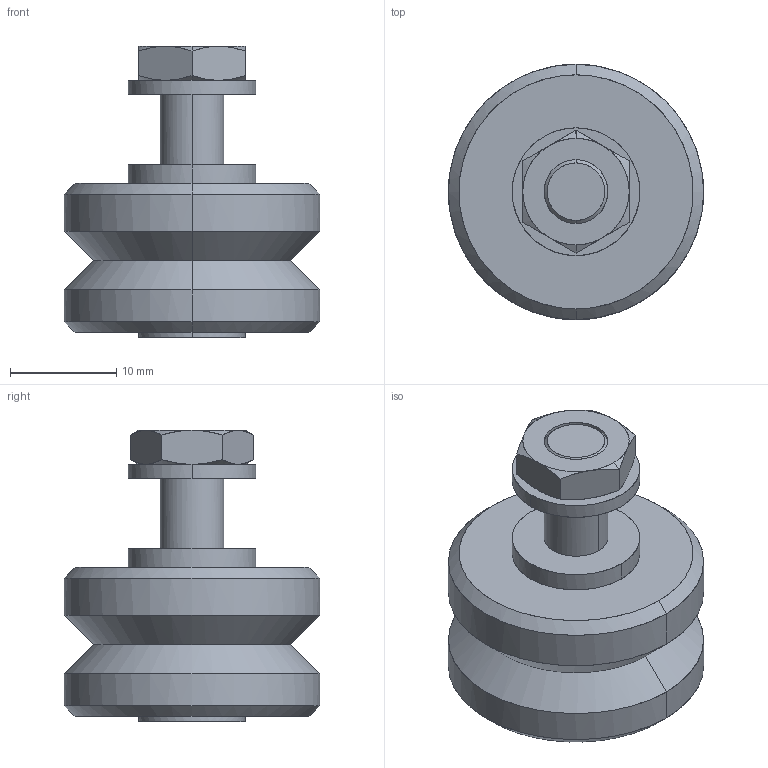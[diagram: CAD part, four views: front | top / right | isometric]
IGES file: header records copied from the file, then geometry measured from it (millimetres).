
Global section: file name: No Iges File Name specified; native system: AutoDesk Inventor R10; preprocessor: AutoDesk Inventor Iges Exporter R10; author: No Author specified; organization: No Organization specified; date: 20101224.114651; units: millimetre
Bounding box: 24 x 24 x 27.4 mm (x, y, z)
Surface area: 2582.5 mm2 (no closed solid volume)
Topology: 0 solids, 0 shells, 57 faces, 312 edges, 312 vertices
Faces by surface type: bspline 57
